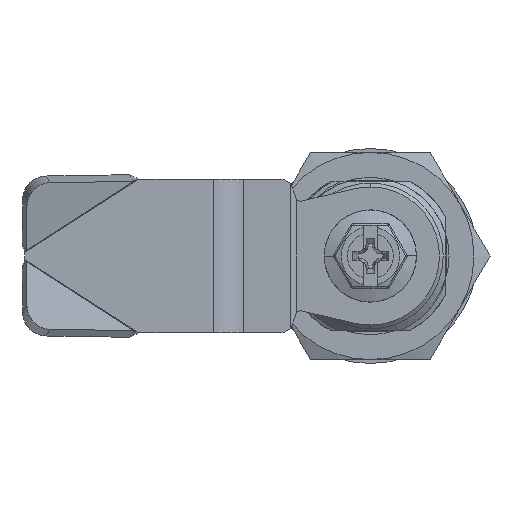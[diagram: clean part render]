
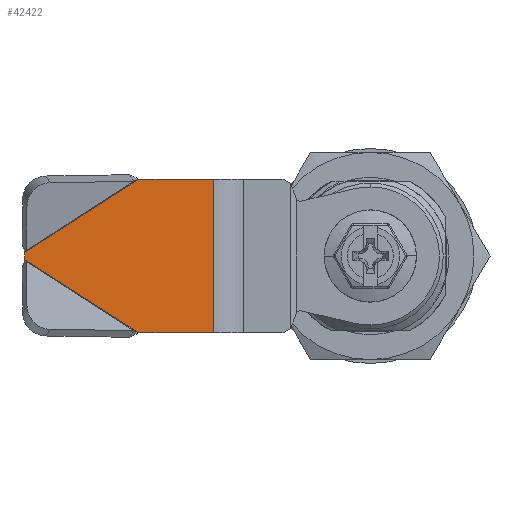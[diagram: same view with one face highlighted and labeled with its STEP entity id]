
A CAD part, front view. The second image highlights one B-rep face of the part: STEP entity #42422.
In plain terms, the highlighted planar face has unit normal (0, -1, 0).
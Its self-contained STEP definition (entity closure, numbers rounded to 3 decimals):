
#41615=DIRECTION('',(-1.,0.,0.));
#41616=VECTOR('',#41615,9.661);
#41617=CARTESIAN_POINT('',(30.142,-14.,-10.));
#41618=LINE('',#41617,#41616);
#41619=DIRECTION('',(-0.841,0.,-0.541));
#41620=VECTOR('',#41619,17.664);
#41621=CARTESIAN_POINT('',(45.,-14.,-0.448));
#41622=LINE('',#41621,#41620);
#41623=DIRECTION('',(-0.841,0.,0.541));
#41624=VECTOR('',#41623,17.664);
#41625=CARTESIAN_POINT('',(45.,-14.,0.448));
#41626=LINE('',#41625,#41624);
#41627=DIRECTION('',(0.,0.,1.));
#41628=VECTOR('',#41627,0.896);
#41629=CARTESIAN_POINT('',(45.,-14.,-0.448));
#41630=LINE('',#41629,#41628);
#41739=DIRECTION('',(-1.,0.,0.));
#41740=VECTOR('',#41739,9.661);
#41741=CARTESIAN_POINT('',(30.142,-14.,10.));
#41742=LINE('',#41741,#41740);
#41761=DIRECTION('',(0.,0.,1.));
#41762=VECTOR('',#41761,20.);
#41763=CARTESIAN_POINT('',(20.481,-14.,-10.));
#41764=LINE('',#41763,#41762);
#41794=CARTESIAN_POINT('',(20.481,-14.,-10.));
#41796=VERTEX_POINT('',#41794);
#41851=CARTESIAN_POINT('',(20.481,-14.,10.));
#41852=VERTEX_POINT('',#41851);
#41871=CARTESIAN_POINT('',(30.142,-14.,10.));
#41872=VERTEX_POINT('',#41871);
#41882=CARTESIAN_POINT('',(45.,-14.,0.448));
#41883=VERTEX_POINT('',#41882);
#41886=CARTESIAN_POINT('',(30.142,-14.,-10.));
#41887=VERTEX_POINT('',#41886);
#41890=CARTESIAN_POINT('',(45.,-14.,-0.448));
#41891=VERTEX_POINT('',#41890);
#42404=CARTESIAN_POINT('',(45.,-14.,-10.));
#42405=DIRECTION('',(0.,1.,0.));
#42406=DIRECTION('',(-1.,0.,0.));
#42407=AXIS2_PLACEMENT_3D('',#42404,#42405,#42406);
#42408=PLANE('',#42407);
#42410=ORIENTED_EDGE('',*,*,#42409,.T.);
#42411=ORIENTED_EDGE('',*,*,#42399,.T.);
#42413=ORIENTED_EDGE('',*,*,#42412,.T.);
#42415=ORIENTED_EDGE('',*,*,#42414,.F.);
#42417=ORIENTED_EDGE('',*,*,#42416,.F.);
#42419=ORIENTED_EDGE('',*,*,#42418,.F.);
#42420=EDGE_LOOP('',(#42410,#42411,#42413,#42415,#42417,#42419));
#42421=FACE_OUTER_BOUND('',#42420,.F.);
#42422=ADVANCED_FACE('',(#42421),#42408,.F.);
#42399=EDGE_CURVE('',#41887,#41796,#41618,.T.);
#42409=EDGE_CURVE('',#41891,#41887,#41622,.T.);
#42412=EDGE_CURVE('',#41796,#41852,#41764,.T.);
#42414=EDGE_CURVE('',#41872,#41852,#41742,.T.);
#42416=EDGE_CURVE('',#41883,#41872,#41626,.T.);
#42418=EDGE_CURVE('',#41891,#41883,#41630,.T.);
